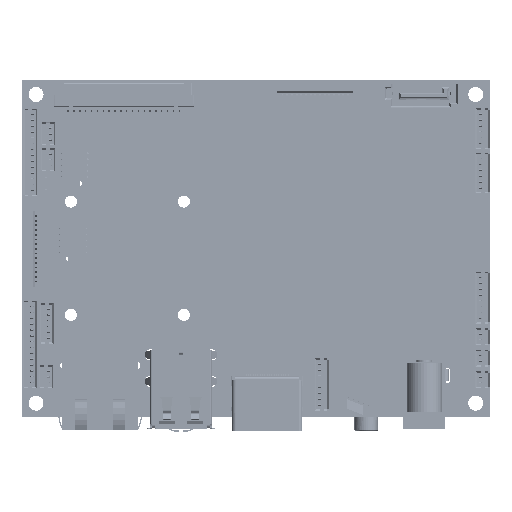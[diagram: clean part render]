
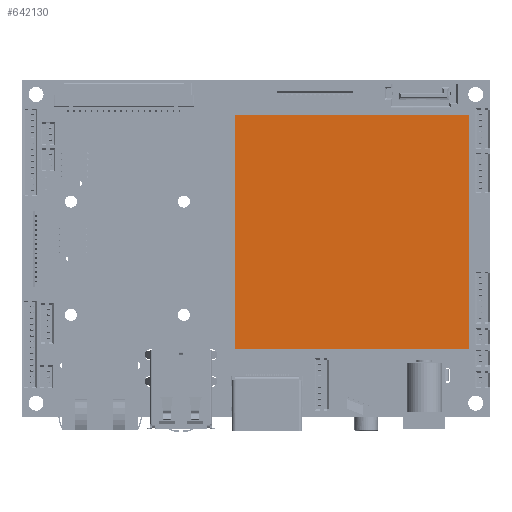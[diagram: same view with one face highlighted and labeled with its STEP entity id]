
A CAD part, top view. The second image highlights one B-rep face of the part: STEP entity #642130.
In plain terms, the highlighted planar face has unit normal (0, 0, 1).
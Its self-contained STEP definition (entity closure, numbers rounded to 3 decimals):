
#641816 = VERTEX_POINT('',#641817);
#641817 = CARTESIAN_POINT('',(-25.,-25.,5.6));
#641824 = PLANE('',#641825);
#641825 = AXIS2_PLACEMENT_3D('',#641826,#641827,#641828);
#641826 = CARTESIAN_POINT('',(-25.,-25.,0.));
#641827 = DIRECTION('',(-1.,0.,0.));
#641828 = DIRECTION('',(0.,1.,0.));
#641836 = PLANE('',#641837);
#641837 = AXIS2_PLACEMENT_3D('',#641838,#641839,#641840);
#641838 = CARTESIAN_POINT('',(25.,-25.,0.));
#641839 = DIRECTION('',(0.,-1.,0.));
#641840 = DIRECTION('',(-1.,0.,0.));
#641848 = EDGE_CURVE('',#641816,#641849,#641851,.T.);
#641849 = VERTEX_POINT('',#641850);
#641850 = CARTESIAN_POINT('',(-25.,25.,5.6));
#641851 = SURFACE_CURVE('',#641852,(#641856,#641863),.PCURVE_S1.);
#641852 = LINE('',#641853,#641854);
#641853 = CARTESIAN_POINT('',(-25.,-25.,5.6));
#641854 = VECTOR('',#641855,1.);
#641855 = DIRECTION('',(0.,1.,0.));
#641856 = PCURVE('',#641824,#641857);
#641857 = DEFINITIONAL_REPRESENTATION('',(#641858),#641862);
#641858 = LINE('',#641859,#641860);
#641859 = CARTESIAN_POINT('',(0.,-5.6));
#641860 = VECTOR('',#641861,1.);
#641861 = DIRECTION('',(1.,0.));
#641862 = ( GEOMETRIC_REPRESENTATION_CONTEXT(2) 
PARAMETRIC_REPRESENTATION_CONTEXT() REPRESENTATION_CONTEXT('2D SPACE',''
  ) );
#641863 = PCURVE('',#641864,#641869);
#641864 = PLANE('',#641865);
#641865 = AXIS2_PLACEMENT_3D('',#641866,#641867,#641868);
#641866 = CARTESIAN_POINT('',(-25.,-25.,5.6));
#641867 = DIRECTION('',(0.,0.,1.));
#641868 = DIRECTION('',(1.,0.,0.));
#641869 = DEFINITIONAL_REPRESENTATION('',(#641870),#641874);
#641870 = LINE('',#641871,#641872);
#641871 = CARTESIAN_POINT('',(0.,0.));
#641872 = VECTOR('',#641873,1.);
#641873 = DIRECTION('',(0.,1.));
#641874 = ( GEOMETRIC_REPRESENTATION_CONTEXT(2) 
PARAMETRIC_REPRESENTATION_CONTEXT() REPRESENTATION_CONTEXT('2D SPACE',''
  ) );
#641892 = PLANE('',#641893);
#641893 = AXIS2_PLACEMENT_3D('',#641894,#641895,#641896);
#641894 = CARTESIAN_POINT('',(-25.,25.,0.));
#641895 = DIRECTION('',(0.,1.,0.));
#641896 = DIRECTION('',(1.,0.,0.));
#641934 = EDGE_CURVE('',#641849,#641935,#641937,.T.);
#641935 = VERTEX_POINT('',#641936);
#641936 = CARTESIAN_POINT('',(25.,25.,5.6));
#641937 = SURFACE_CURVE('',#641938,(#641942,#641949),.PCURVE_S1.);
#641938 = LINE('',#641939,#641940);
#641939 = CARTESIAN_POINT('',(-25.,25.,5.6));
#641940 = VECTOR('',#641941,1.);
#641941 = DIRECTION('',(1.,0.,0.));
#641942 = PCURVE('',#641892,#641943);
#641943 = DEFINITIONAL_REPRESENTATION('',(#641944),#641948);
#641944 = LINE('',#641945,#641946);
#641945 = CARTESIAN_POINT('',(0.,-5.6));
#641946 = VECTOR('',#641947,1.);
#641947 = DIRECTION('',(1.,0.));
#641948 = ( GEOMETRIC_REPRESENTATION_CONTEXT(2) 
PARAMETRIC_REPRESENTATION_CONTEXT() REPRESENTATION_CONTEXT('2D SPACE',''
  ) );
#641949 = PCURVE('',#641864,#641950);
#641950 = DEFINITIONAL_REPRESENTATION('',(#641951),#641955);
#641951 = LINE('',#641952,#641953);
#641952 = CARTESIAN_POINT('',(0.,50.));
#641953 = VECTOR('',#641954,1.);
#641954 = DIRECTION('',(1.,0.));
#641955 = ( GEOMETRIC_REPRESENTATION_CONTEXT(2) 
PARAMETRIC_REPRESENTATION_CONTEXT() REPRESENTATION_CONTEXT('2D SPACE',''
  ) );
#641973 = PLANE('',#641974);
#641974 = AXIS2_PLACEMENT_3D('',#641975,#641976,#641977);
#641975 = CARTESIAN_POINT('',(25.,25.,0.));
#641976 = DIRECTION('',(1.,0.,0.));
#641977 = DIRECTION('',(0.,-1.,0.));
#642010 = EDGE_CURVE('',#641935,#642011,#642013,.T.);
#642011 = VERTEX_POINT('',#642012);
#642012 = CARTESIAN_POINT('',(25.,-25.,5.6));
#642013 = SURFACE_CURVE('',#642014,(#642018,#642025),.PCURVE_S1.);
#642014 = LINE('',#642015,#642016);
#642015 = CARTESIAN_POINT('',(25.,25.,5.6));
#642016 = VECTOR('',#642017,1.);
#642017 = DIRECTION('',(0.,-1.,0.));
#642018 = PCURVE('',#641973,#642019);
#642019 = DEFINITIONAL_REPRESENTATION('',(#642020),#642024);
#642020 = LINE('',#642021,#642022);
#642021 = CARTESIAN_POINT('',(0.,-5.6));
#642022 = VECTOR('',#642023,1.);
#642023 = DIRECTION('',(1.,0.));
#642024 = ( GEOMETRIC_REPRESENTATION_CONTEXT(2) 
PARAMETRIC_REPRESENTATION_CONTEXT() REPRESENTATION_CONTEXT('2D SPACE',''
  ) );
#642025 = PCURVE('',#641864,#642026);
#642026 = DEFINITIONAL_REPRESENTATION('',(#642027),#642031);
#642027 = LINE('',#642028,#642029);
#642028 = CARTESIAN_POINT('',(50.,50.));
#642029 = VECTOR('',#642030,1.);
#642030 = DIRECTION('',(0.,-1.));
#642031 = ( GEOMETRIC_REPRESENTATION_CONTEXT(2) 
PARAMETRIC_REPRESENTATION_CONTEXT() REPRESENTATION_CONTEXT('2D SPACE',''
  ) );
#642081 = EDGE_CURVE('',#642011,#641816,#642082,.T.);
#642082 = SURFACE_CURVE('',#642083,(#642087,#642094),.PCURVE_S1.);
#642083 = LINE('',#642084,#642085);
#642084 = CARTESIAN_POINT('',(25.,-25.,5.6));
#642085 = VECTOR('',#642086,1.);
#642086 = DIRECTION('',(-1.,0.,0.));
#642087 = PCURVE('',#641836,#642088);
#642088 = DEFINITIONAL_REPRESENTATION('',(#642089),#642093);
#642089 = LINE('',#642090,#642091);
#642090 = CARTESIAN_POINT('',(0.,-5.6));
#642091 = VECTOR('',#642092,1.);
#642092 = DIRECTION('',(1.,0.));
#642093 = ( GEOMETRIC_REPRESENTATION_CONTEXT(2) 
PARAMETRIC_REPRESENTATION_CONTEXT() REPRESENTATION_CONTEXT('2D SPACE',''
  ) );
#642094 = PCURVE('',#641864,#642095);
#642095 = DEFINITIONAL_REPRESENTATION('',(#642096),#642100);
#642096 = LINE('',#642097,#642098);
#642097 = CARTESIAN_POINT('',(50.,0.));
#642098 = VECTOR('',#642099,1.);
#642099 = DIRECTION('',(-1.,0.));
#642100 = ( GEOMETRIC_REPRESENTATION_CONTEXT(2) 
PARAMETRIC_REPRESENTATION_CONTEXT() REPRESENTATION_CONTEXT('2D SPACE',''
  ) );
#642130 = ADVANCED_FACE('',(#642131),#641864,.T.);
#642131 = FACE_BOUND('',#642132,.F.);
#642132 = EDGE_LOOP('',(#642133,#642134,#642135,#642136));
#642133 = ORIENTED_EDGE('',*,*,#641848,.T.);
#642134 = ORIENTED_EDGE('',*,*,#641934,.T.);
#642135 = ORIENTED_EDGE('',*,*,#642010,.T.);
#642136 = ORIENTED_EDGE('',*,*,#642081,.T.);
